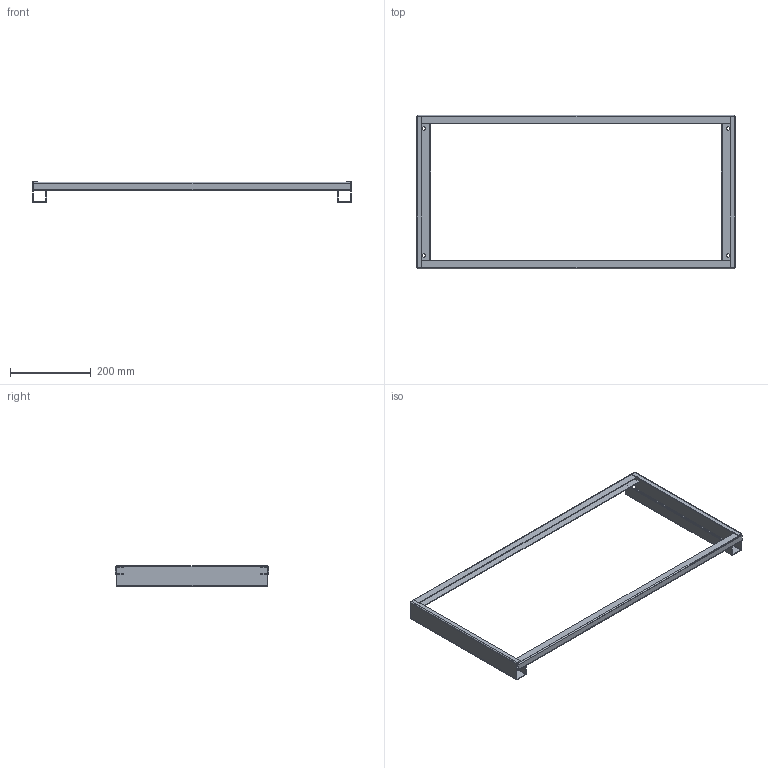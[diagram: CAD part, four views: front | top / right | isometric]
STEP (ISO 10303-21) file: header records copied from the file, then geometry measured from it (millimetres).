
FILE_DESCRIPTION (( 'STEP AP203' ), '1' );
FILE_NAME ('095779351 GH9_TA.STEP', '2021-05-24T07:58:39', ( '' ), ( '' ), 'SwSTEP 2.0', 'SolidWorks 2020', '' );
FILE_SCHEMA (( 'CONFIG_CONTROL_DESIGN' ));
Length unit declared in the file: millimetre
Products named in the file (1): 095779351 GH9_TA
Bounding box: 790 x 380 x 52 mm (x, y, z)
Volume: 350484.5 mm3; surface area: 361345.5 mm2
Topology: 4 solids, 4 shells, 112 faces, 232 edges, 128 vertices
Faces by surface type: plane 84, cylinder 28
Entity records: 2939 total; most frequent: DIRECTION 514, CARTESIAN_POINT 473, ORIENTED_EDGE 464, EDGE_CURVE 232, LINE 176, VECTOR 176, AXIS2_PLACEMENT_3D 169, VERTEX_POINT 128
